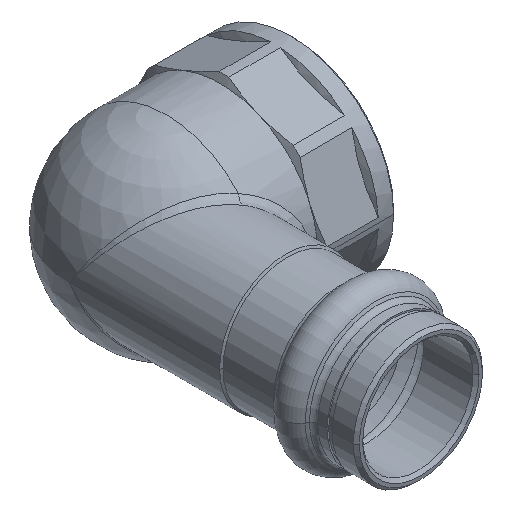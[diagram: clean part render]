
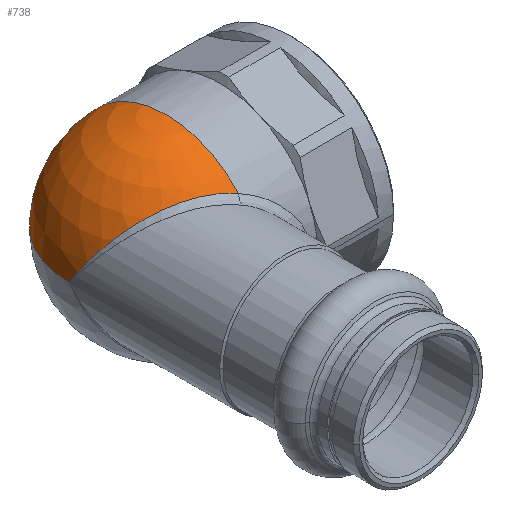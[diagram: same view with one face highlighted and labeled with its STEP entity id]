
A CAD part, isometric view. The second image highlights one B-rep face of the part: STEP entity #738.
In plain terms, the highlighted spherical face has radius 16 mm.
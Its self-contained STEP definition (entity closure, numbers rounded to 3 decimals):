
#23 = SPHERICAL_SURFACE ( 'NONE', #2815, 16. ) ;
#45 = CARTESIAN_POINT ( 'NONE',  ( -10.864, -1.136, 1.827 ) ) ;
#58 = CARTESIAN_POINT ( 'NONE',  ( -4.516, -7.608, 10.427 ) ) ;
#292 = CARTESIAN_POINT ( 'NONE',  ( -10.46, -2.261, 3.608 ) ) ;
#305 = CARTESIAN_POINT ( 'NONE',  ( -2.718, -8.583, 11.093 ) ) ;
#483 = CARTESIAN_POINT ( 'NONE',  ( 1.126, -10.382, 11.544 ) ) ;
#535 = CARTESIAN_POINT ( 'NONE',  ( -9.515, -3.644, 5.686 ) ) ;
#548 = CARTESIAN_POINT ( 'NONE',  ( -1.31, -9.283, 11.414 ) ) ;
#563 = ORIENTED_EDGE ( 'NONE', *, *, #1016, .T. ) ;
#661 = FACE_OUTER_BOUND ( 'NONE', #2615, .T. ) ;
#726 = DIRECTION ( 'NONE',  ( 0., 0., 1. ) ) ;
#734 = CARTESIAN_POINT ( 'NONE',  ( 1.866, -10.695, 11.484 ) ) ;
#738 = ADVANCED_FACE ( 'NONE', ( #661 ), #23, .T. ) ;
#786 = CARTESIAN_POINT ( 'NONE',  ( -8.762, -4.469, 6.851 ) ) ;
#799 = CARTESIAN_POINT ( 'NONE',  ( 0.137, -9.952, 11.559 ) ) ;
#812 = CARTESIAN_POINT ( 'NONE',  ( -11., 0., 0. ) ) ;
#874 = CARTESIAN_POINT ( 'NONE',  ( 5., 0., 0. ) ) ;
#981 = CARTESIAN_POINT ( 'NONE',  ( 4.056, -11.574, 11.06 ) ) ;
#1016 = EDGE_CURVE ( 'NONE', #2100, #1491, #1704, .T. ) ;
#1020 = CARTESIAN_POINT ( 'NONE',  ( -11., 0., 0. ) ) ;
#1031 = CARTESIAN_POINT ( 'NONE',  ( -7.879, -5.274, 7.913 ) ) ;
#1032 = AXIS2_PLACEMENT_3D ( 'NONE', #2577, #1093, #2827 ) ;
#1093 = DIRECTION ( 'NONE',  ( -1., 0., 0. ) ) ;
#1109 = ORIENTED_EDGE ( 'NONE', *, *, #2085, .T. ) ;
#1281 = CARTESIAN_POINT ( 'NONE',  ( -6.866, -6.068, 8.87 ) ) ;
#1316 = EDGE_CURVE ( 'NONE', #1493, #2100, #2251, .T. ) ;
#1433 = CARTESIAN_POINT ( 'NONE',  ( 0.877, -10.275, 11.554 ) ) ;
#1491 = VERTEX_POINT ( 'NONE', #812 ) ;
#1493 = VERTEX_POINT ( 'NONE', #2792 ) ;
#1511 = CARTESIAN_POINT ( 'NONE',  ( -10.973, -0.569, 0.917 ) ) ;
#1521 = CARTESIAN_POINT ( 'NONE',  ( -5.345, -7.109, 9.98 ) ) ;
#1582 = AXIS2_PLACEMENT_3D ( 'NONE', #874, #726, #2873 ) ;
#1704 = CIRCLE ( 'NONE', #1582, 16. ) ;
#1769 = CARTESIAN_POINT ( 'NONE',  ( -10.782, -1.42, 2.279 ) ) ;
#1781 = CARTESIAN_POINT ( 'NONE',  ( -3.181, -8.34, 10.945 ) ) ;
#1967 = CARTESIAN_POINT ( 'NONE',  ( 5., 0., 0. ) ) ;
#2012 = CARTESIAN_POINT ( 'NONE',  ( -10.143, -2.814, 4.462 ) ) ;
#2020 = CARTESIAN_POINT ( 'NONE',  ( -1.784, -9.054, 11.326 ) ) ;
#2085 = EDGE_CURVE ( 'NONE', #1491, #1493, #3059, .T. ) ;
#2100 = VERTEX_POINT ( 'NONE', #2755 ) ;
#2214 = CARTESIAN_POINT ( 'NONE',  ( 1.62, -10.592, 11.509 ) ) ;
#2251 = CIRCLE ( 'NONE', #1032, 16. ) ;
#2266 = CARTESIAN_POINT ( 'NONE',  ( -9.278, -3.922, 6.087 ) ) ;
#2276 = CARTESIAN_POINT ( 'NONE',  ( -0.349, -9.733, 11.53 ) ) ;
#2470 = CARTESIAN_POINT ( 'NONE',  ( 3.091, -11.199, 11.317 ) ) ;
#2508 = CARTESIAN_POINT ( 'NONE',  ( -11., -0.284, 0.459 ) ) ;
#2518 = CARTESIAN_POINT ( 'NONE',  ( -8.482, -4.739, 7.216 ) ) ;
#2577 = CARTESIAN_POINT ( 'NONE',  ( 5., 0., 0. ) ) ;
#2615 = EDGE_LOOP ( 'NONE', ( #3020, #563, #1109 ) ) ;
#2661 = DIRECTION ( 'NONE',  ( 0., 1., 0. ) ) ;
#2717 = CARTESIAN_POINT ( 'NONE',  ( 5., -11.926, 10.667 ) ) ;
#2755 = CARTESIAN_POINT ( 'NONE',  ( 5., 16., 0. ) ) ;
#2768 = CARTESIAN_POINT ( 'NONE',  ( -7.555, -5.54, 8.244 ) ) ;
#2792 = CARTESIAN_POINT ( 'NONE',  ( 5., -11.926, 10.667 ) ) ;
#2815 = AXIS2_PLACEMENT_3D ( 'NONE', #1967, #2955, #2661 ) ;
#2827 = DIRECTION ( 'NONE',  ( 0., -1., 0. ) ) ;
#2873 = DIRECTION ( 'NONE',  ( 1., 0., 0. ) ) ;
#2955 = DIRECTION ( 'NONE',  ( 0., 0., -1. ) ) ;
#3018 = CARTESIAN_POINT ( 'NONE',  ( -6.497, -6.332, 9.166 ) ) ;
#3020 = ORIENTED_EDGE ( 'NONE', *, *, #1316, .T. ) ;
#3059 = B_SPLINE_CURVE_WITH_KNOTS ( 'NONE', 3,
 ( #1020, #2508, #1511, #45, #1769, #292, #2012, #535, #2266, #786, #2518, #1031, #2768, #1281, #3018, #1521, #58, #1781, #305, #2020, #548, #2276, #799, #1433, #483, #2214, #734, #2470, #981, #2717 ),
 .UNSPECIFIED., .F., .F.,
 ( 4, 2, 2, 2, 2, 2, 2, 2, 2, 2, 2, 2, 2, 2, 4 ),
 ( 0., 0.002, 0.003, 0.006, 0.008, 0.01, 0.011, 0.013, 0.016, 0.018, 0.019, 0.021, 0.022, 0.023, 0.026 ),
 .UNSPECIFIED. ) ;
